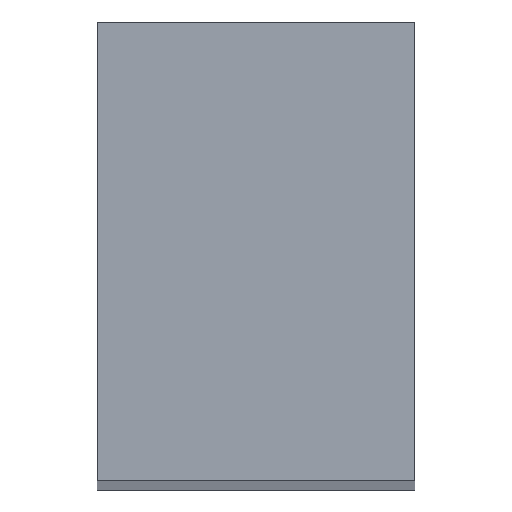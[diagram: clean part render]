
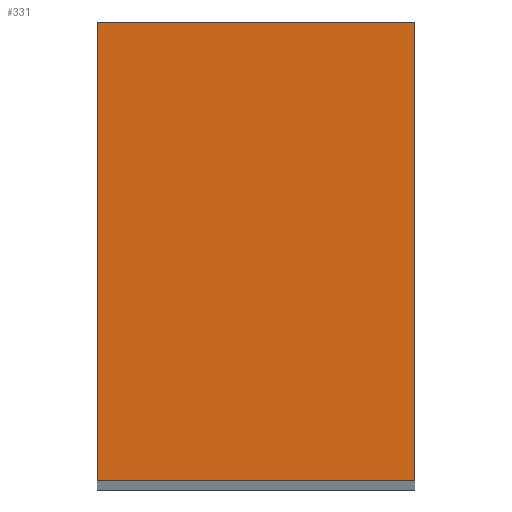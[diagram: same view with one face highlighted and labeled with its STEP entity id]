
A CAD part, top view. The second image highlights one B-rep face of the part: STEP entity #331.
In plain terms, the highlighted planar face has unit normal (0, 0, 1).
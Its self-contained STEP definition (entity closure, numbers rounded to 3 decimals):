
#22 = VERTEX_POINT('',#23);
#23 = CARTESIAN_POINT('',(-101.,-23.,-35.));
#32 = PLANE('',#33);
#33 = AXIS2_PLACEMENT_3D('',#34,#35,#36);
#34 = CARTESIAN_POINT('',(-101.,-23.,-35.));
#35 = DIRECTION('',(-1.,0.,0.));
#36 = DIRECTION('',(0.,0.,-1.));
#44 = PLANE('',#45);
#45 = AXIS2_PLACEMENT_3D('',#46,#47,#48);
#46 = CARTESIAN_POINT('',(-101.,-23.,-35.));
#47 = DIRECTION('',(0.,1.,0.));
#48 = DIRECTION('',(0.,0.,-1.));
#56 = EDGE_CURVE('',#22,#57,#59,.T.);
#57 = VERTEX_POINT('',#58);
#58 = CARTESIAN_POINT('',(-101.,3.,-35.));
#59 = SURFACE_CURVE('',#60,(#64,#71),.PCURVE_S1.);
#60 = LINE('',#61,#62);
#61 = CARTESIAN_POINT('',(-101.,-23.,-35.));
#62 = VECTOR('',#63,1.);
#63 = DIRECTION('',(0.,1.,0.));
#64 = PCURVE('',#32,#65);
#65 = DEFINITIONAL_REPRESENTATION('',(#66),#70);
#66 = LINE('',#67,#68);
#67 = CARTESIAN_POINT('',(0.,0.));
#68 = VECTOR('',#69,1.);
#69 = DIRECTION('',(0.,-1.));
#70 = ( GEOMETRIC_REPRESENTATION_CONTEXT(2) 
PARAMETRIC_REPRESENTATION_CONTEXT() REPRESENTATION_CONTEXT('2D SPACE',''
  ) );
#71 = PCURVE('',#72,#77);
#72 = PLANE('',#73);
#73 = AXIS2_PLACEMENT_3D('',#74,#75,#76);
#74 = CARTESIAN_POINT('',(-101.,-23.,-35.));
#75 = DIRECTION('',(0.,0.,-1.));
#76 = DIRECTION('',(-1.,0.,0.));
#77 = DEFINITIONAL_REPRESENTATION('',(#78),#82);
#78 = LINE('',#79,#80);
#79 = CARTESIAN_POINT('',(0.,0.));
#80 = VECTOR('',#81,1.);
#81 = DIRECTION('',(0.,1.));
#82 = ( GEOMETRIC_REPRESENTATION_CONTEXT(2) 
PARAMETRIC_REPRESENTATION_CONTEXT() REPRESENTATION_CONTEXT('2D SPACE',''
  ) );
#100 = PLANE('',#101);
#101 = AXIS2_PLACEMENT_3D('',#102,#103,#104);
#102 = CARTESIAN_POINT('',(-101.,3.,-35.));
#103 = DIRECTION('',(0.,1.,0.));
#104 = DIRECTION('',(0.,0.,-1.));
#142 = VERTEX_POINT('',#143);
#143 = CARTESIAN_POINT('',(-119.,-23.,-35.));
#152 = PLANE('',#153);
#153 = AXIS2_PLACEMENT_3D('',#154,#155,#156);
#154 = CARTESIAN_POINT('',(-119.,-23.,-35.));
#155 = DIRECTION('',(-1.,0.,0.));
#156 = DIRECTION('',(0.,0.,-1.));
#171 = EDGE_CURVE('',#142,#172,#174,.T.);
#172 = VERTEX_POINT('',#173);
#173 = CARTESIAN_POINT('',(-119.,3.,-35.));
#174 = SURFACE_CURVE('',#175,(#179,#186),.PCURVE_S1.);
#175 = LINE('',#176,#177);
#176 = CARTESIAN_POINT('',(-119.,-23.,-35.));
#177 = VECTOR('',#178,1.);
#178 = DIRECTION('',(0.,1.,0.));
#179 = PCURVE('',#152,#180);
#180 = DEFINITIONAL_REPRESENTATION('',(#181),#185);
#181 = LINE('',#182,#183);
#182 = CARTESIAN_POINT('',(0.,0.));
#183 = VECTOR('',#184,1.);
#184 = DIRECTION('',(0.,-1.));
#185 = ( GEOMETRIC_REPRESENTATION_CONTEXT(2) 
PARAMETRIC_REPRESENTATION_CONTEXT() REPRESENTATION_CONTEXT('2D SPACE',''
  ) );
#186 = PCURVE('',#72,#187);
#187 = DEFINITIONAL_REPRESENTATION('',(#188),#192);
#188 = LINE('',#189,#190);
#189 = CARTESIAN_POINT('',(18.,0.));
#190 = VECTOR('',#191,1.);
#191 = DIRECTION('',(0.,1.));
#192 = ( GEOMETRIC_REPRESENTATION_CONTEXT(2) 
PARAMETRIC_REPRESENTATION_CONTEXT() REPRESENTATION_CONTEXT('2D SPACE',''
  ) );
#241 = EDGE_CURVE('',#22,#142,#242,.T.);
#242 = SURFACE_CURVE('',#243,(#247,#254),.PCURVE_S1.);
#243 = LINE('',#244,#245);
#244 = CARTESIAN_POINT('',(-101.,-23.,-35.));
#245 = VECTOR('',#246,1.);
#246 = DIRECTION('',(-1.,0.,0.));
#247 = PCURVE('',#44,#248);
#248 = DEFINITIONAL_REPRESENTATION('',(#249),#253);
#249 = LINE('',#250,#251);
#250 = CARTESIAN_POINT('',(0.,0.));
#251 = VECTOR('',#252,1.);
#252 = DIRECTION('',(0.,1.));
#253 = ( GEOMETRIC_REPRESENTATION_CONTEXT(2) 
PARAMETRIC_REPRESENTATION_CONTEXT() REPRESENTATION_CONTEXT('2D SPACE',''
  ) );
#254 = PCURVE('',#72,#255);
#255 = DEFINITIONAL_REPRESENTATION('',(#256),#260);
#256 = LINE('',#257,#258);
#257 = CARTESIAN_POINT('',(0.,0.));
#258 = VECTOR('',#259,1.);
#259 = DIRECTION('',(1.,0.));
#260 = ( GEOMETRIC_REPRESENTATION_CONTEXT(2) 
PARAMETRIC_REPRESENTATION_CONTEXT() REPRESENTATION_CONTEXT('2D SPACE',''
  ) );
#288 = EDGE_CURVE('',#57,#172,#289,.T.);
#289 = SURFACE_CURVE('',#290,(#294,#301),.PCURVE_S1.);
#290 = LINE('',#291,#292);
#291 = CARTESIAN_POINT('',(-101.,3.,-35.));
#292 = VECTOR('',#293,1.);
#293 = DIRECTION('',(-1.,0.,0.));
#294 = PCURVE('',#100,#295);
#295 = DEFINITIONAL_REPRESENTATION('',(#296),#300);
#296 = LINE('',#297,#298);
#297 = CARTESIAN_POINT('',(0.,0.));
#298 = VECTOR('',#299,1.);
#299 = DIRECTION('',(0.,1.));
#300 = ( GEOMETRIC_REPRESENTATION_CONTEXT(2) 
PARAMETRIC_REPRESENTATION_CONTEXT() REPRESENTATION_CONTEXT('2D SPACE',''
  ) );
#301 = PCURVE('',#72,#302);
#302 = DEFINITIONAL_REPRESENTATION('',(#303),#307);
#303 = LINE('',#304,#305);
#304 = CARTESIAN_POINT('',(0.,26.));
#305 = VECTOR('',#306,1.);
#306 = DIRECTION('',(1.,0.));
#307 = ( GEOMETRIC_REPRESENTATION_CONTEXT(2) 
PARAMETRIC_REPRESENTATION_CONTEXT() REPRESENTATION_CONTEXT('2D SPACE',''
  ) );
#331 = ADVANCED_FACE('',(#332),#72,.F.);
#332 = FACE_BOUND('',#333,.F.);
#333 = EDGE_LOOP('',(#334,#335,#336,#337));
#334 = ORIENTED_EDGE('',*,*,#56,.F.);
#335 = ORIENTED_EDGE('',*,*,#241,.T.);
#336 = ORIENTED_EDGE('',*,*,#171,.T.);
#337 = ORIENTED_EDGE('',*,*,#288,.F.);
